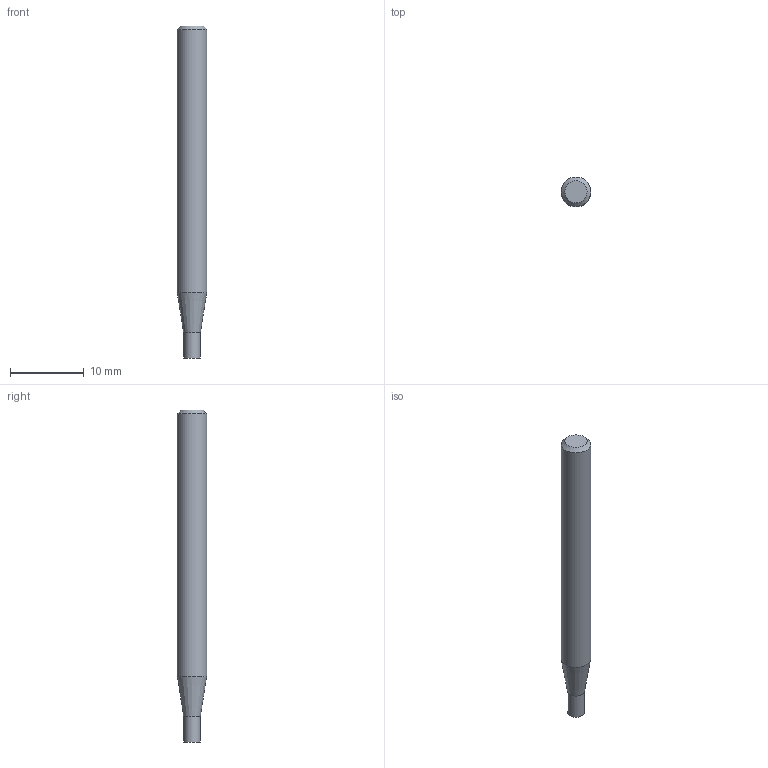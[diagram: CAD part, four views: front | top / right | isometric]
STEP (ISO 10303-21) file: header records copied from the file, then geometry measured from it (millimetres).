
FILE_DESCRIPTION((''),'2;1');
FILE_NAME('C:\Users\nsx150\AppData\Local\Temp\Mastercam 2021\98T1Q6BTT1\TEMP.step','2021-10-21T14:48:05',(''),(''),'STEP Write','Mastercam 2021 ... CNC Software, Inc.','');
FILE_SCHEMA(('AUTOMOTIVE_DESIGN'));
Length unit declared in the file: millimetre
Products named in the file (1): None
Bounding box: 4 x 4 x 45 mm (x, y, z)
Volume: 510 mm3; surface area: 554.1 mm2
Topology: 2 solids, 2 shells, 8 faces, 10 edges, 6 vertices
Faces by surface type: plane 4, cylinder 2, cone 2
Full cylindrical faces by diameter (mm): 2.3 x1, 4 x1
Entity records: 190 total; most frequent: DIRECTION 32, CARTESIAN_POINT 22, AXIS2_PLACEMENT_3D 16, ORIENTED_EDGE 12, EDGE_LOOP 12, STYLED_ITEM 11, ADVANCED_FACE 8, VERTEX_POINT 6
